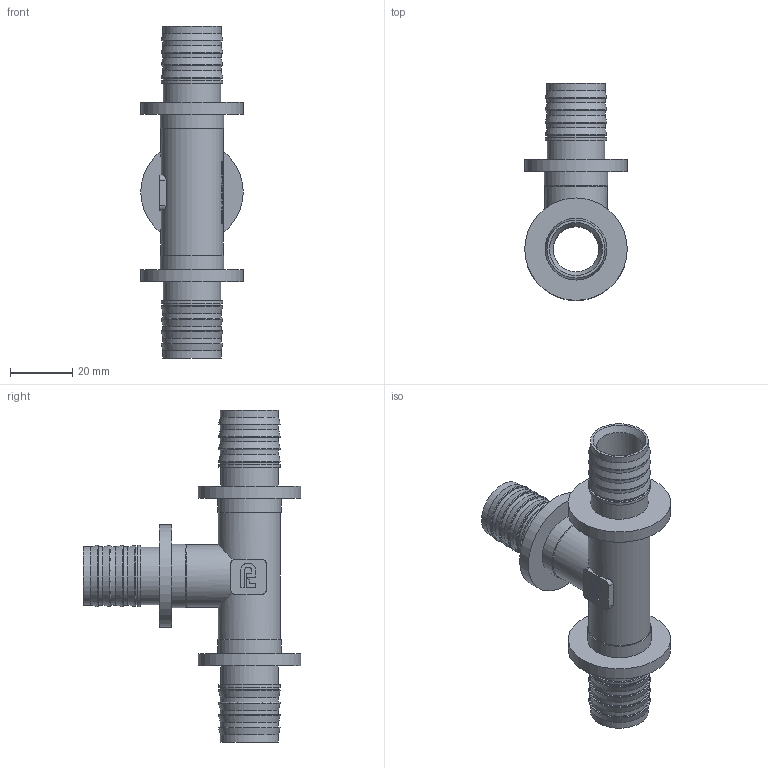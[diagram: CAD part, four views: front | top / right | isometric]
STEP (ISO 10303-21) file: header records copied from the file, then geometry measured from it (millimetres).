
FILE_DESCRIPTION(/* description */ (''),/* implementation_level */ '2;1');
FILE_NAME(/* name */ 'C:\Users\Doom\Desktop\Фадотех\Натяжка\SFT03_NEW 25 29.05.2020\SFT03_NEW 25 29.05.2020.stp',/* time_stamp */ '2022-07-25T18:40:23+03:00',/* author */ ('Doom'),/* organization */ (''),/* preprocessor_version */ 'ST-DEVELOPER v18',/* originating_system */ 'Autodesk Inventor 2020',/* authorisation */ '');
FILE_SCHEMA (('AUTOMOTIVE_DESIGN { 1 0 10303 214 3 1 1 }'));
Length unit declared in the file: millimetre
Products named in the file (1): SFT03_NEW 25 29.05.2020
Bounding box: 33 x 70 x 107 mm (x, y, z)
Volume: 25967.2 mm3; surface area: 20850.6 mm2
Topology: 1 solids, 1 shells, 260 faces, 730 edges, 507 vertices
Faces by surface type: bspline 104, plane 87, cylinder 39, cone 18, torus 12
Full cylindrical faces by diameter (mm): 14.7 x2, 18.626 x6, 18.7 x12, 19.9 x3, 20 x2, 20.5 x3, 33 x3
Entity records: 10873 total; most frequent: CARTESIAN_POINT 4523, ORIENTED_EDGE 1460, DIRECTION 1075, EDGE_CURVE 730, VERTEX_POINT 507, AXIS2_PLACEMENT_3D 398, EDGE_LOOP 299, LINE 279
